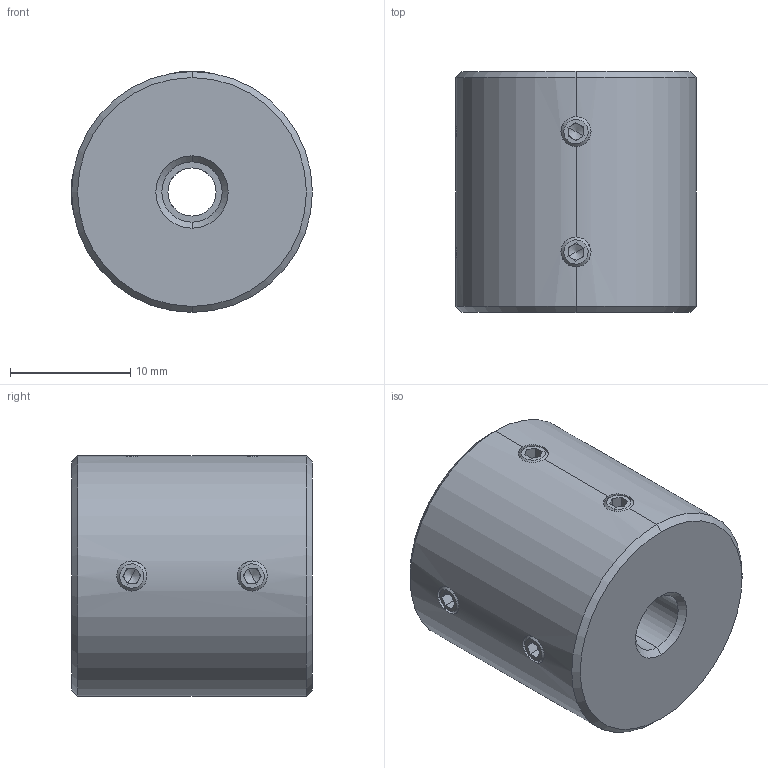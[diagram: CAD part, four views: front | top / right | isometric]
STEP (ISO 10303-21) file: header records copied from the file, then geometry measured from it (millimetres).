
FILE_DESCRIPTION (( 'STEP AP214' ), '1' );
FILE_NAME ('LL-D-D20L20-4-5.STEP', '2022-07-23T06:25:56', ( '' ), ( '' ), 'SwSTEP 2.0', 'SolidWorks 2022', '' );
FILE_SCHEMA (( 'AUTOMOTIVE_DESIGN' ));
Length unit declared in the file: millimetre
Products named in the file (1): LL-D-D20L20-4-5
Bounding box: 20 x 20 x 20 mm (x, y, z)
Volume: 5854.9 mm3; surface area: 2272.9 mm2
Topology: 1 solids, 1 shells, 113 faces, 286 edges, 176 vertices
Faces by surface type: plane 59, cone 32, cylinder 22
Entity records: 3648 total; most frequent: CARTESIAN_POINT 898, DIRECTION 582, ORIENTED_EDGE 556, EDGE_CURVE 278, AXIS2_PLACEMENT_3D 214, VERTEX_POINT 176, LINE 154, VECTOR 154
